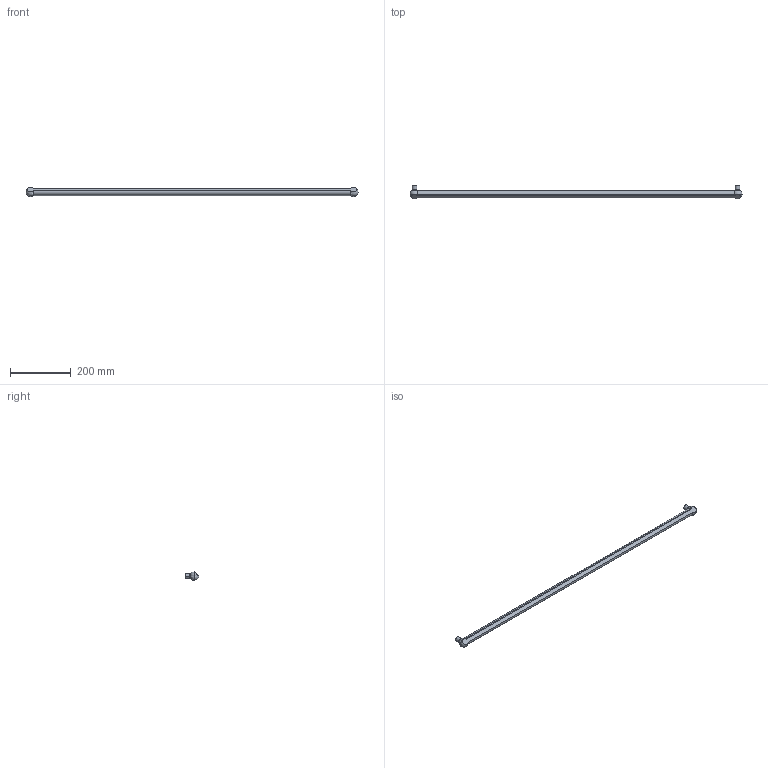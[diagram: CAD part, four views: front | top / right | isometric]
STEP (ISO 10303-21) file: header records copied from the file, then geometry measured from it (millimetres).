
FILE_DESCRIPTION( ( '' ), '1' );
FILE_NAME( 'D:/1.AUTOCAD EXPORT/Group 10/sheet_10_1/9105775.stp', '2013-10-18T08:15:57', ( '' ), ( '' ), ' ', ' ', ' ' );
FILE_SCHEMA( ( 'automotive_design' ) );
Length unit declared in the file: millimetre
Products named in the file (1): 1
Bounding box: 1095 x 45 x 30 mm (x, y, z)
Volume: 492679.5 mm3; surface area: 84754.2 mm2
Topology: 1 solids, 1 shells, 26 faces, 72 edges, 40 vertices
Faces by surface type: cylinder 11, sphere 6, plane 5, torus 4
Entity records: 1548 total; most frequent: DIRECTION 162, CARTESIAN_POINT 157, STYLED_ITEM 129, PRESENTATION_STYLE_ASSIGNMENT 129, COLOUR_RGB 129, ORIENTED_EDGE 124, AXIS2_PLACEMENT_3D 75, EDGE_CURVE 62
